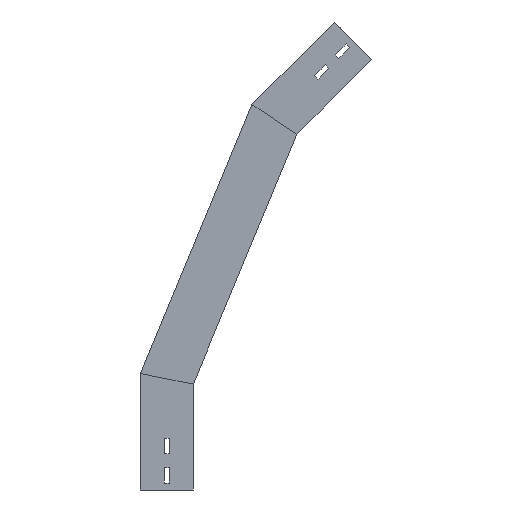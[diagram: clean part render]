
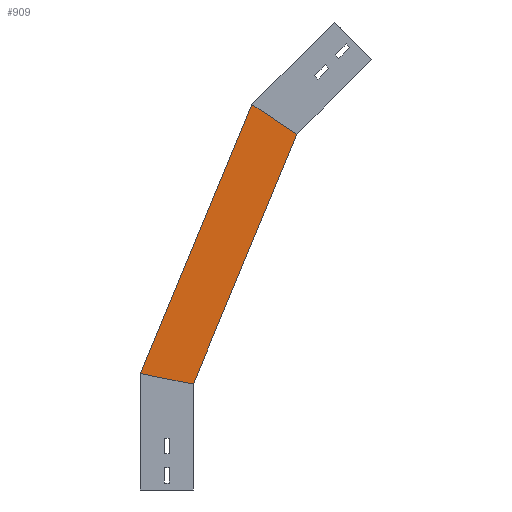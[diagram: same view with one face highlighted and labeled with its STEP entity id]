
A CAD part, left-side view. The second image highlights one B-rep face of the part: STEP entity #909.
In plain terms, the highlighted planar face has unit normal (-1, 0, 0) as drawn and (1, 0, 0) by its records, which use the part's own axes.
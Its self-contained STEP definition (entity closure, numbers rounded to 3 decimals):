
#1 = VECTOR ( 'NONE', #296, 1000. ) ;
#37 = VERTEX_POINT ( 'NONE', #413 ) ;
#75 = EDGE_CURVE ( 'NONE', #1030, #1118, #512, .T. ) ;
#103 = CARTESIAN_POINT ( 'NONE',  ( 0., 0., 150. ) ) ;
#164 = VECTOR ( 'NONE', #656, 1000. ) ;
#166 = EDGE_LOOP ( 'NONE', ( #1194, #1188, #574, #858 ) ) ;
#296 = DIRECTION ( 'NONE',  ( 0., -0.383, 0.924 ) ) ;
#330 = CARTESIAN_POINT ( 'NONE',  ( 0., 75., 164.918 ) ) ;
#385 = DIRECTION ( 'NONE',  ( 1., 0., 0. ) ) ;
#413 = CARTESIAN_POINT ( 'NONE',  ( 0., -82.986, 546.33 ) ) ;
#435 = VECTOR ( 'NONE', #912, 1000. ) ;
#443 = AXIS2_PLACEMENT_3D ( 'NONE', #1195, #385, #976 ) ;
#512 = LINE ( 'NONE', #1458, #1 ) ;
#557 = CARTESIAN_POINT ( 'NONE',  ( 0., 75.609, 163.448 ) ) ;
#570 = LINE ( 'NONE', #670, #435 ) ;
#574 = ORIENTED_EDGE ( 'NONE', *, *, #75, .F. ) ;
#620 = VERTEX_POINT ( 'NONE', #330 ) ;
#656 = DIRECTION ( 'NONE',  ( 0., -0.383, 0.924 ) ) ;
#670 = CARTESIAN_POINT ( 'NONE',  ( 0., -211.373, 460.544 ) ) ;
#770 = PLANE ( 'NONE',  #443 ) ;
#858 = ORIENTED_EDGE ( 'NONE', *, *, #1155, .F. ) ;
#909 = ADVANCED_FACE ( 'NONE', ( #1088 ), #770, .T. ) ;
#912 = DIRECTION ( 'NONE',  ( 0., -0.831, -0.556 ) ) ;
#919 = LINE ( 'NONE', #1065, #1041 ) ;
#976 = DIRECTION ( 'NONE',  ( 0., 0., -1. ) ) ;
#1030 = VERTEX_POINT ( 'NONE', #103 ) ;
#1041 = VECTOR ( 'NONE', #1168, 1000. ) ;
#1065 = CARTESIAN_POINT ( 'NONE',  ( 0., -28.701, 144.291 ) ) ;
#1088 = FACE_OUTER_BOUND ( 'NONE', #166, .T. ) ;
#1104 = EDGE_CURVE ( 'NONE', #37, #1118, #570, .T. ) ;
#1111 = CARTESIAN_POINT ( 'NONE',  ( 0., -146.568, 503.846 ) ) ;
#1118 = VERTEX_POINT ( 'NONE', #1111 ) ;
#1144 = LINE ( 'NONE', #557, #164 ) ;
#1155 = EDGE_CURVE ( 'NONE', #620, #1030, #919, .T. ) ;
#1168 = DIRECTION ( 'NONE',  ( 0., -0.981, -0.195 ) ) ;
#1188 = ORIENTED_EDGE ( 'NONE', *, *, #1104, .T. ) ;
#1194 = ORIENTED_EDGE ( 'NONE', *, *, #1362, .T. ) ;
#1195 = CARTESIAN_POINT ( 'NONE',  ( 0., 6.318, 134.746 ) ) ;
#1362 = EDGE_CURVE ( 'NONE', #620, #37, #1144, .T. ) ;
#1458 = CARTESIAN_POINT ( 'NONE',  ( 0., 6.318, 134.746 ) ) ;
